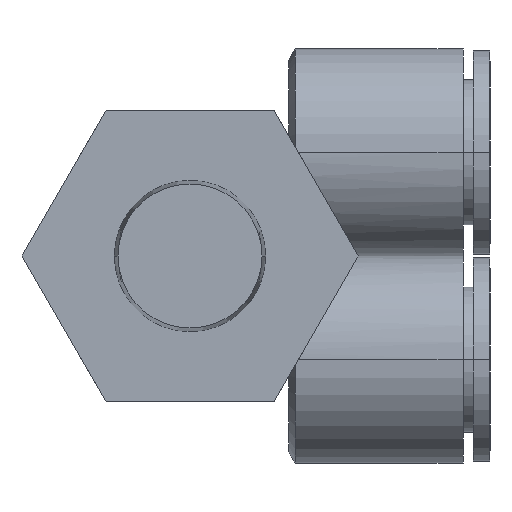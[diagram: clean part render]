
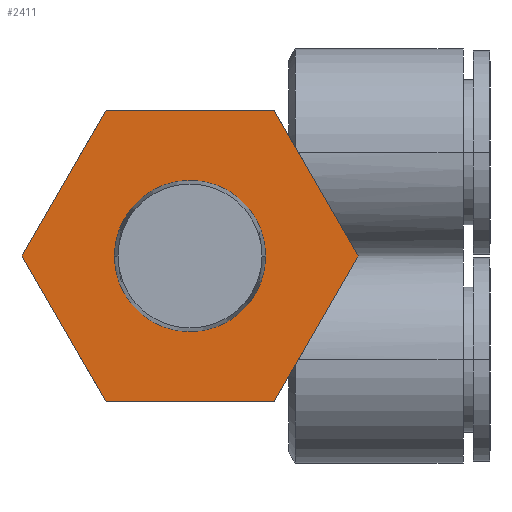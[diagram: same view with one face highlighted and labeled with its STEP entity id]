
A CAD part, front view. The second image highlights one B-rep face of the part: STEP entity #2411.
In plain terms, the highlighted planar face has unit normal (0, -1, 0).
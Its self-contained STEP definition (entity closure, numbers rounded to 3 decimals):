
#120 = DIRECTION ( 'NONE',  ( 1., 0., 0. ) ) ;
#268 = AXIS2_PLACEMENT_3D ( 'NONE', #2433, #1769, #2096 ) ;
#284 = LINE ( 'NONE', #2693, #3817 ) ;
#302 = EDGE_CURVE ( 'NONE', #2941, #3243, #3139, .T. ) ;
#332 = ORIENTED_EDGE ( 'NONE', *, *, #302, .T. ) ;
#357 = ORIENTED_EDGE ( 'NONE', *, *, #1759, .T. ) ;
#437 = FACE_OUTER_BOUND ( 'NONE', #840, .T. ) ;
#593 = VERTEX_POINT ( 'NONE', #1463 ) ;
#814 = VERTEX_POINT ( 'NONE', #3496 ) ;
#840 = EDGE_LOOP ( 'NONE', ( #1177, #332, #357, #2580, #2872, #1994 ) ) ;
#962 = DIRECTION ( 'NONE',  ( 0.5, 0., -0.866 ) ) ;
#998 = VERTEX_POINT ( 'NONE', #1885 ) ;
#1106 = AXIS2_PLACEMENT_3D ( 'NONE', #2797, #1278, #3023 ) ;
#1177 = ORIENTED_EDGE ( 'NONE', *, *, #2029, .T. ) ;
#1193 = EDGE_CURVE ( 'NONE', #3639, #1395, #1356, .T. ) ;
#1278 = DIRECTION ( 'NONE',  ( 0., 1., 0. ) ) ;
#1291 = CARTESIAN_POINT ( 'NONE',  ( -12.948, 5.8, -3.573 ) ) ;
#1337 = FACE_BOUND ( 'NONE', #1918, .T. ) ;
#1356 = LINE ( 'NONE', #2249, #1809 ) ;
#1395 = VERTEX_POINT ( 'NONE', #3910 ) ;
#1463 = CARTESIAN_POINT ( 'NONE',  ( 6.76, 5.8, 0. ) ) ;
#1621 = ORIENTED_EDGE ( 'NONE', *, *, #2306, .T. ) ;
#1654 = PLANE ( 'NONE',  #3039 ) ;
#1737 = CARTESIAN_POINT ( 'NONE',  ( -6.76, 5.8, -13. ) ) ;
#1759 = EDGE_CURVE ( 'NONE', #3243, #814, #3581, .T. ) ;
#1760 = VERTEX_POINT ( 'NONE', #3848 ) ;
#1769 = DIRECTION ( 'NONE',  ( 0., 1., 0. ) ) ;
#1809 = VECTOR ( 'NONE', #2843, 1000. ) ;
#1821 = CARTESIAN_POINT ( 'NONE',  ( -12.948, 5.8, 3.573 ) ) ;
#1858 = CARTESIAN_POINT ( 'NONE',  ( -7.506, 5.8, -13. ) ) ;
#1885 = CARTESIAN_POINT ( 'NONE',  ( -6.76, 5.8, 0. ) ) ;
#1918 = EDGE_LOOP ( 'NONE', ( #1621, #2800 ) ) ;
#1933 = EDGE_CURVE ( 'NONE', #593, #998, #3540, .T. ) ;
#1994 = ORIENTED_EDGE ( 'NONE', *, *, #1193, .T. ) ;
#2029 = EDGE_CURVE ( 'NONE', #1395, #2941, #2738, .T. ) ;
#2096 = DIRECTION ( 'NONE',  ( -1., 0., 0. ) ) ;
#2150 = VECTOR ( 'NONE', #3903, 1000. ) ;
#2249 = CARTESIAN_POINT ( 'NONE',  ( -6.76, 5.8, 13. ) ) ;
#2306 = EDGE_CURVE ( 'NONE', #998, #593, #3101, .T. ) ;
#2411 = ADVANCED_FACE ( 'NONE', ( #437, #1337 ), #1654, .F. ) ;
#2433 = CARTESIAN_POINT ( 'NONE',  ( 0., 5.8, 0. ) ) ;
#2458 = VECTOR ( 'NONE', #3967, 1000. ) ;
#2476 = CARTESIAN_POINT ( 'NONE',  ( 9.568, 5.8, 9.427 ) ) ;
#2580 = ORIENTED_EDGE ( 'NONE', *, *, #3650, .T. ) ;
#2629 = EDGE_CURVE ( 'NONE', #1760, #3639, #3097, .T. ) ;
#2674 = DIRECTION ( 'NONE',  ( 0.5, 0., 0.866 ) ) ;
#2693 = CARTESIAN_POINT ( 'NONE',  ( 9.568, 5.8, -9.427 ) ) ;
#2707 = VECTOR ( 'NONE', #962, 1000. ) ;
#2738 = LINE ( 'NONE', #1821, #2458 ) ;
#2797 = CARTESIAN_POINT ( 'NONE',  ( 0., 5.8, 0. ) ) ;
#2800 = ORIENTED_EDGE ( 'NONE', *, *, #1933, .T. ) ;
#2843 = DIRECTION ( 'NONE',  ( -1., 0., 0. ) ) ;
#2872 = ORIENTED_EDGE ( 'NONE', *, *, #2629, .T. ) ;
#2941 = VERTEX_POINT ( 'NONE', #3590 ) ;
#3021 = CARTESIAN_POINT ( 'NONE',  ( 7.506, 5.8, 13. ) ) ;
#3023 = DIRECTION ( 'NONE',  ( -1., 0., 0. ) ) ;
#3039 = AXIS2_PLACEMENT_3D ( 'NONE', #3785, #3482, #120 ) ;
#3097 = LINE ( 'NONE', #2476, #3547 ) ;
#3101 = CIRCLE ( 'NONE', #268, 6.76 ) ;
#3139 = LINE ( 'NONE', #1291, #2707 ) ;
#3243 = VERTEX_POINT ( 'NONE', #1858 ) ;
#3378 = DIRECTION ( 'NONE',  ( -0.5, 0., 0.866 ) ) ;
#3482 = DIRECTION ( 'NONE',  ( 0., 1., 0. ) ) ;
#3496 = CARTESIAN_POINT ( 'NONE',  ( 7.506, 5.8, -13. ) ) ;
#3540 = CIRCLE ( 'NONE', #1106, 6.76 ) ;
#3547 = VECTOR ( 'NONE', #3378, 1000. ) ;
#3581 = LINE ( 'NONE', #1737, #2150 ) ;
#3590 = CARTESIAN_POINT ( 'NONE',  ( -15.011, 5.8, 0. ) ) ;
#3639 = VERTEX_POINT ( 'NONE', #3021 ) ;
#3650 = EDGE_CURVE ( 'NONE', #814, #1760, #284, .T. ) ;
#3785 = CARTESIAN_POINT ( 'NONE',  ( -6.76, 5.8, 0. ) ) ;
#3817 = VECTOR ( 'NONE', #2674, 1000. ) ;
#3848 = CARTESIAN_POINT ( 'NONE',  ( 15.011, 5.8, 0. ) ) ;
#3903 = DIRECTION ( 'NONE',  ( 1., 0., 0. ) ) ;
#3910 = CARTESIAN_POINT ( 'NONE',  ( -7.506, 5.8, 13. ) ) ;
#3967 = DIRECTION ( 'NONE',  ( -0.5, 0., -0.866 ) ) ;
